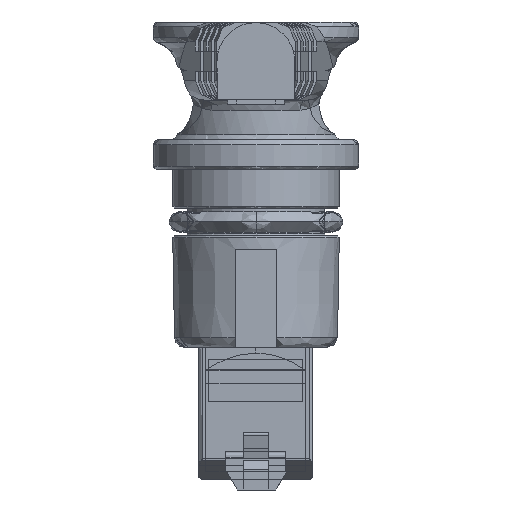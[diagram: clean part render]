
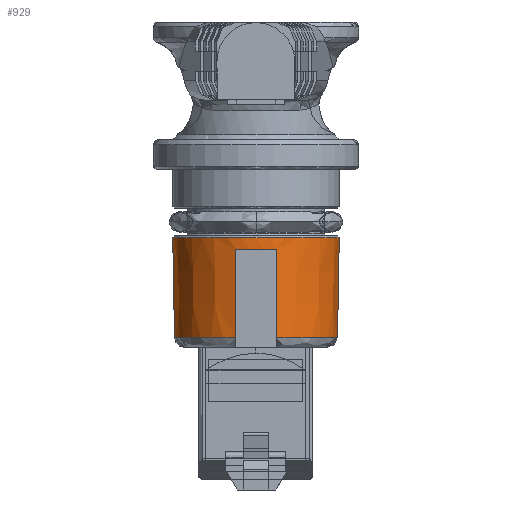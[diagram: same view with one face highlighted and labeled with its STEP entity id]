
A CAD part, front view. The second image highlights one B-rep face of the part: STEP entity #929.
In plain terms, the highlighted conical face has half-angle 1 degrees and reference radius 8.318 mm.
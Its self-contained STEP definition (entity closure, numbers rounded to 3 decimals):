
#155 = VERTEX_POINT ( 'NONE', #3907 ) ;
#740 = VERTEX_POINT ( 'NONE', #7341 ) ;
#748 = ORIENTED_EDGE ( 'NONE', *, *, #2939, .F. ) ;
#839 = CARTESIAN_POINT ( 'NONE',  ( -8.265, 22.138, 10.983 ) ) ;
#905 = VERTEX_POINT ( 'NONE', #7571 ) ;
#929 = ADVANCED_FACE ( 'NONE', ( #8265 ), #8687, .T. ) ;
#939 = ORIENTED_EDGE ( 'NONE', *, *, #2173, .T. ) ;
#1143 = EDGE_CURVE ( 'NONE', #5498, #905, #8023, .T. ) ;
#1161 = EDGE_CURVE ( 'NONE', #905, #155, #7506, .T. ) ;
#1351 = AXIS2_PLACEMENT_3D ( 'NONE', #6922, #6278, #2021 ) ;
#1355 = VECTOR ( 'NONE', #6993, 1000. ) ;
#1769 = DIRECTION ( 'NONE',  ( 0., 0., 1. ) ) ;
#1921 = CARTESIAN_POINT ( 'NONE',  ( -6.165, 13.926, 20. ) ) ;
#2021 = DIRECTION ( 'NONE',  ( 1., 0., 0. ) ) ;
#2110 = LINE ( 'NONE', #8268, #8483 ) ;
#2173 = EDGE_CURVE ( 'NONE', #5498, #740, #6255, .T. ) ;
#2351 = ORIENTED_EDGE ( 'NONE', *, *, #7304, .F. ) ;
#2459 = AXIS2_PLACEMENT_3D ( 'NONE', #6443, #7982, #5126 ) ;
#2939 = EDGE_CURVE ( 'NONE', #4577, #740, #9249, .T. ) ;
#3024 = CARTESIAN_POINT ( 'NONE',  ( -10.365, 14.035, 13.988 ) ) ;
#3404 = EDGE_LOOP ( 'NONE', ( #8673, #4782, #2351, #4369, #5065, #7421, #939, #748 ) ) ;
#3533 = EDGE_CURVE ( 'NONE', #7225, #4577, #2110, .T. ) ;
#3632 = CARTESIAN_POINT ( 'NONE',  ( 0.053, 22.138, 10.983 ) ) ;
#3678 = CARTESIAN_POINT ( 'NONE',  ( -10.365, 14.089, 10.983 ) ) ;
#3710 = VERTEX_POINT ( 'NONE', #6293 ) ;
#3840 = CARTESIAN_POINT ( 'NONE',  ( -6.165, 14.089, 10.983 ) ) ;
#3907 = CARTESIAN_POINT ( 'NONE',  ( -6.165, 13.926, 20. ) ) ;
#3970 = CARTESIAN_POINT ( 'NONE',  ( -10.365, 14.089, 10.983 ) ) ;
#4289 = AXIS2_PLACEMENT_3D ( 'NONE', #4582, #7598, #5434 ) ;
#4369 = ORIENTED_EDGE ( 'NONE', *, *, #5213, .F. ) ;
#4380 = DIRECTION ( 'NONE',  ( 0., 0., -1. ) ) ;
#4577 = VERTEX_POINT ( 'NONE', #5649 ) ;
#4582 = CARTESIAN_POINT ( 'NONE',  ( -8.265, 22.138, 10.983 ) ) ;
#4782 = ORIENTED_EDGE ( 'NONE', *, *, #4907, .F. ) ;
#4907 = EDGE_CURVE ( 'NONE', #7049, #7225, #8676, .T. ) ;
#5065 = ORIENTED_EDGE ( 'NONE', *, *, #1161, .F. ) ;
#5126 = DIRECTION ( 'NONE',  ( 0., -1., 0. ) ) ;
#5213 = EDGE_CURVE ( 'NONE', #155, #3710, #8894, .T. ) ;
#5434 = DIRECTION ( 'NONE',  ( 1., 0., 0. ) ) ;
#5498 = VERTEX_POINT ( 'NONE', #3632 ) ;
#5578 = CARTESIAN_POINT ( 'NONE',  ( 0.053, 22.138, 10.983 ) ) ;
#5649 = CARTESIAN_POINT ( 'NONE',  ( -16.761, 22.138, 21.197 ) ) ;
#6255 = LINE ( 'NONE', #5578, #1355 ) ;
#6278 = DIRECTION ( 'NONE',  ( 0., 0., -1. ) ) ;
#6293 = CARTESIAN_POINT ( 'NONE',  ( -10.365, 13.926, 20. ) ) ;
#6443 = CARTESIAN_POINT ( 'NONE',  ( -8.265, 22.138, 21.197 ) ) ;
#6530 = DIRECTION ( 'NONE',  ( 1., 0., 0. ) ) ;
#6859 = DIRECTION ( 'NONE',  ( -0.017, 0., 1. ) ) ;
#6922 = CARTESIAN_POINT ( 'NONE',  ( -8.265, 22.138, 20. ) ) ;
#6993 = DIRECTION ( 'NONE',  ( 0.017, 0., 1. ) ) ;
#7049 = VERTEX_POINT ( 'NONE', #3970 ) ;
#7225 = VERTEX_POINT ( 'NONE', #9055 ) ;
#7289 = CARTESIAN_POINT ( 'NONE',  ( -10.365, 13.926, 20. ) ) ;
#7304 = EDGE_CURVE ( 'NONE', #3710, #7049, #8267, .T. ) ;
#7341 = CARTESIAN_POINT ( 'NONE',  ( 0.231, 22.138, 21.197 ) ) ;
#7421 = ORIENTED_EDGE ( 'NONE', *, *, #1143, .F. ) ;
#7496 = CARTESIAN_POINT ( 'NONE',  ( -6.165, 13.981, 16.994 ) ) ;
#7506 = B_SPLINE_CURVE_WITH_KNOTS ( 'NONE', 3,
 ( #3840, #7528, #7496, #1921 ),
 .UNSPECIFIED., .F., .F.,
 ( 4, 4 ),
 ( 0., 0.009 ),
 .UNSPECIFIED. ) ;
#7528 = CARTESIAN_POINT ( 'NONE',  ( -6.165, 14.035, 13.988 ) ) ;
#7571 = CARTESIAN_POINT ( 'NONE',  ( -6.165, 14.089, 10.983 ) ) ;
#7598 = DIRECTION ( 'NONE',  ( 0., 0., -1. ) ) ;
#7642 = AXIS2_PLACEMENT_3D ( 'NONE', #8906, #1769, #9005 ) ;
#7954 = CARTESIAN_POINT ( 'NONE',  ( -10.365, 13.981, 16.994 ) ) ;
#7982 = DIRECTION ( 'NONE',  ( 0., 0., 1. ) ) ;
#8023 = CIRCLE ( 'NONE', #4289, 8.318 ) ;
#8265 = FACE_OUTER_BOUND ( 'NONE', #3404, .T. ) ;
#8267 = B_SPLINE_CURVE_WITH_KNOTS ( 'NONE', 3,
 ( #7289, #7954, #3024, #3678 ),
 .UNSPECIFIED., .F., .F.,
 ( 4, 4 ),
 ( 0., 0.009 ),
 .UNSPECIFIED. ) ;
#8268 = CARTESIAN_POINT ( 'NONE',  ( -16.583, 22.138, 10.983 ) ) ;
#8483 = VECTOR ( 'NONE', #6859, 1000. ) ;
#8673 = ORIENTED_EDGE ( 'NONE', *, *, #3533, .F. ) ;
#8676 = CIRCLE ( 'NONE', #9007, 8.318 ) ;
#8687 = CONICAL_SURFACE ( 'NONE', #7642, 8.318, 0.017 ) ;
#8894 = CIRCLE ( 'NONE', #1351, 8.476 ) ;
#8906 = CARTESIAN_POINT ( 'NONE',  ( -8.265, 22.138, 10.983 ) ) ;
#9005 = DIRECTION ( 'NONE',  ( 1., 0., 0. ) ) ;
#9007 = AXIS2_PLACEMENT_3D ( 'NONE', #839, #4380, #6530 ) ;
#9055 = CARTESIAN_POINT ( 'NONE',  ( -16.583, 22.138, 10.983 ) ) ;
#9249 = CIRCLE ( 'NONE', #2459, 8.496 ) ;
